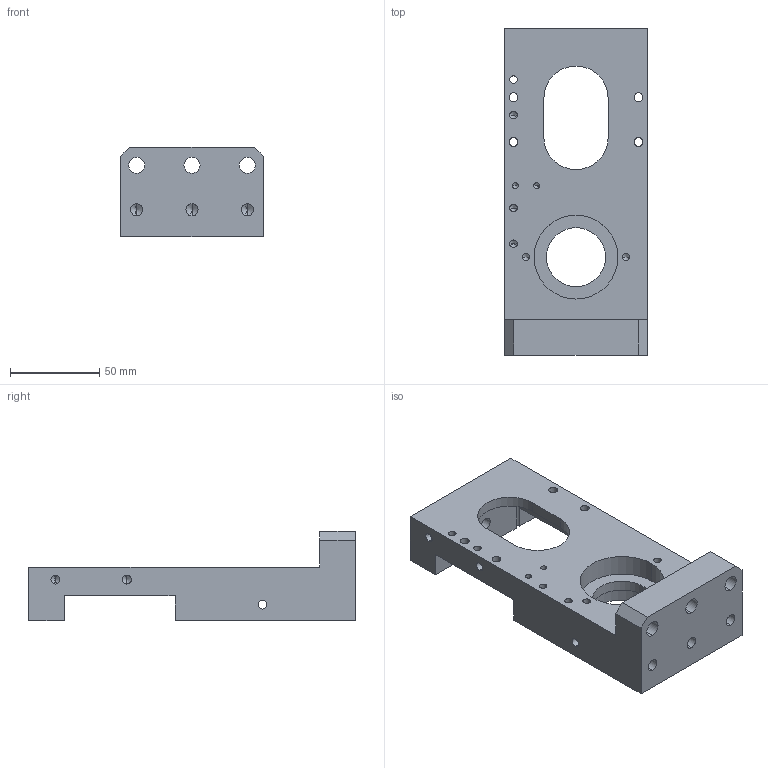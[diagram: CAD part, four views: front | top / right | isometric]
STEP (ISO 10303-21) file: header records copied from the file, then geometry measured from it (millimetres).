
FILE_DESCRIPTION (( 'STEP AP203' ), '1' );
FILE_NAME ('CY-DD-B009.step', '2023-12-27T04:44:19', ( '1' ), ( '' ), 'SwSTEP 2.0', 'SolidWorks 2022', '' );
FILE_SCHEMA (( 'CONFIG_CONTROL_DESIGN' ));
Length unit declared in the file: millimetre
Products named in the file (1): CY-DD-B009
Bounding box: 80 x 183 x 50 mm (x, y, z)
Volume: 297291.7 mm3; surface area: 59816.4 mm2
Topology: 1 solids, 1 shells, 161 faces, 416 edges, 240 vertices
Faces by surface type: cylinder 86, cone 46, plane 29
Entity records: 4835 total; most frequent: CARTESIAN_POINT 890, DIRECTION 860, ORIENTED_EDGE 744, EDGE_CURVE 372, AXIS2_PLACEMENT_3D 334, VERTEX_POINT 240, EDGE_LOOP 214, LINE 192
